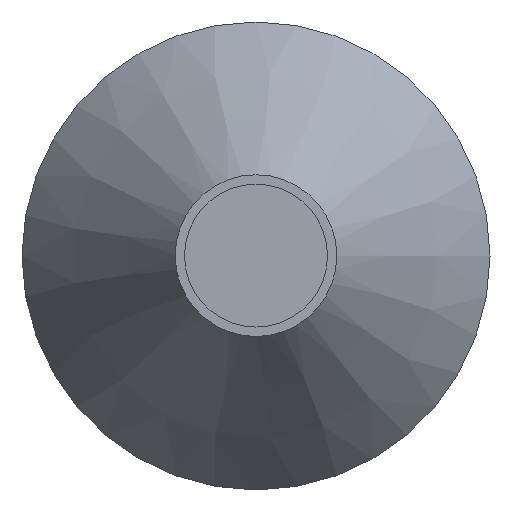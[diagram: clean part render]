
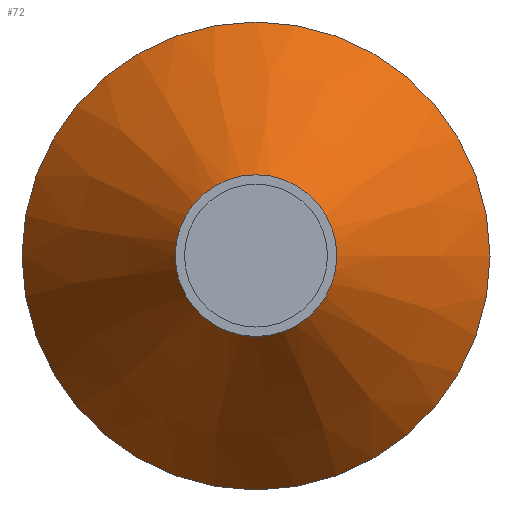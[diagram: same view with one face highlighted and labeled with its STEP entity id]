
A CAD part, top view. The second image highlights one B-rep face of the part: STEP entity #72.
In plain terms, the highlighted conical face has half-angle 34.186 degrees and reference radius 55 mm.
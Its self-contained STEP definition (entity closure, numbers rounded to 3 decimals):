
#39 = EDGE_CURVE('',#40,#40,#42,.T.);
#40 = VERTEX_POINT('',#41);
#41 = CARTESIAN_POINT('',(55.,0.,0.));
#42 = SURFACE_CURVE('',#43,(#48,#60),.PCURVE_S1.);
#43 = CIRCLE('',#44,55.);
#44 = AXIS2_PLACEMENT_3D('',#45,#46,#47);
#45 = CARTESIAN_POINT('',(0.,0.,0.));
#46 = DIRECTION('',(0.,0.,1.));
#47 = DIRECTION('',(1.,0.,-0.));
#48 = PCURVE('',#49,#54);
#49 = PLANE('',#50);
#50 = AXIS2_PLACEMENT_3D('',#51,#52,#53);
#51 = CARTESIAN_POINT('',(0.,0.,0.));
#52 = DIRECTION('',(0.,0.,1.));
#53 = DIRECTION('',(1.,0.,-0.));
#54 = DEFINITIONAL_REPRESENTATION('',(#55),#59);
#55 = CIRCLE('',#56,55.);
#56 = AXIS2_PLACEMENT_2D('',#57,#58);
#57 = CARTESIAN_POINT('',(0.,0.));
#58 = DIRECTION('',(1.,-0.));
#59 = ( GEOMETRIC_REPRESENTATION_CONTEXT(2) 
PARAMETRIC_REPRESENTATION_CONTEXT() REPRESENTATION_CONTEXT('2D SPACE',''
  ) );
#60 = PCURVE('',#61,#66);
#61 = CONICAL_SURFACE('',#62,55.,0.597);
#62 = AXIS2_PLACEMENT_3D('',#63,#64,#65);
#63 = CARTESIAN_POINT('',(0.,0.,0.));
#64 = DIRECTION('',(-0.,-0.,-1.));
#65 = DIRECTION('',(1.,0.,-0.));
#66 = DEFINITIONAL_REPRESENTATION('',(#67),#71);
#67 = LINE('',#68,#69);
#68 = CARTESIAN_POINT('',(-0.,-0.));
#69 = VECTOR('',#70,1.);
#70 = DIRECTION('',(-1.,-0.));
#71 = ( GEOMETRIC_REPRESENTATION_CONTEXT(2) 
PARAMETRIC_REPRESENTATION_CONTEXT() REPRESENTATION_CONTEXT('2D SPACE',''
  ) );
#72 = ADVANCED_FACE('',(#73),#61,.T.);
#73 = FACE_BOUND('',#74,.T.);
#74 = EDGE_LOOP('',(#75,#76,#99,#126));
#75 = ORIENTED_EDGE('',*,*,#39,.T.);
#76 = ORIENTED_EDGE('',*,*,#77,.T.);
#77 = EDGE_CURVE('',#40,#78,#80,.T.);
#78 = VERTEX_POINT('',#79);
#79 = CARTESIAN_POINT('',(19.,0.,53.));
#80 = SEAM_CURVE('',#81,(#85,#92),.PCURVE_S1.);
#81 = LINE('',#82,#83);
#82 = CARTESIAN_POINT('',(55.,0.,0.));
#83 = VECTOR('',#84,1.);
#84 = DIRECTION('',(-0.562,0.,0.827));
#85 = PCURVE('',#61,#86);
#86 = DEFINITIONAL_REPRESENTATION('',(#87),#91);
#87 = LINE('',#88,#89);
#88 = CARTESIAN_POINT('',(-0.,-0.));
#89 = VECTOR('',#90,1.);
#90 = DIRECTION('',(-0.,-1.));
#91 = ( GEOMETRIC_REPRESENTATION_CONTEXT(2) 
PARAMETRIC_REPRESENTATION_CONTEXT() REPRESENTATION_CONTEXT('2D SPACE',''
  ) );
#92 = PCURVE('',#61,#93);
#93 = DEFINITIONAL_REPRESENTATION('',(#94),#98);
#94 = LINE('',#95,#96);
#95 = CARTESIAN_POINT('',(-6.283,-0.));
#96 = VECTOR('',#97,1.);
#97 = DIRECTION('',(-0.,-1.));
#98 = ( GEOMETRIC_REPRESENTATION_CONTEXT(2) 
PARAMETRIC_REPRESENTATION_CONTEXT() REPRESENTATION_CONTEXT('2D SPACE',''
  ) );
#99 = ORIENTED_EDGE('',*,*,#100,.F.);
#100 = EDGE_CURVE('',#78,#78,#101,.T.);
#101 = SURFACE_CURVE('',#102,(#107,#114),.PCURVE_S1.);
#102 = CIRCLE('',#103,19.);
#103 = AXIS2_PLACEMENT_3D('',#104,#105,#106);
#104 = CARTESIAN_POINT('',(0.,0.,53.));
#105 = DIRECTION('',(0.,0.,1.));
#106 = DIRECTION('',(1.,0.,-0.));
#107 = PCURVE('',#61,#108);
#108 = DEFINITIONAL_REPRESENTATION('',(#109),#113);
#109 = LINE('',#110,#111);
#110 = CARTESIAN_POINT('',(-0.,-53.));
#111 = VECTOR('',#112,1.);
#112 = DIRECTION('',(-1.,-0.));
#113 = ( GEOMETRIC_REPRESENTATION_CONTEXT(2) 
PARAMETRIC_REPRESENTATION_CONTEXT() REPRESENTATION_CONTEXT('2D SPACE',''
  ) );
#114 = PCURVE('',#115,#120);
#115 = PLANE('',#116);
#116 = AXIS2_PLACEMENT_3D('',#117,#118,#119);
#117 = CARTESIAN_POINT('',(0.,0.,53.));
#118 = DIRECTION('',(0.,0.,1.));
#119 = DIRECTION('',(1.,0.,-0.));
#120 = DEFINITIONAL_REPRESENTATION('',(#121),#125);
#121 = CIRCLE('',#122,19.);
#122 = AXIS2_PLACEMENT_2D('',#123,#124);
#123 = CARTESIAN_POINT('',(0.,0.));
#124 = DIRECTION('',(1.,0.));
#125 = ( GEOMETRIC_REPRESENTATION_CONTEXT(2) 
PARAMETRIC_REPRESENTATION_CONTEXT() REPRESENTATION_CONTEXT('2D SPACE',''
  ) );
#126 = ORIENTED_EDGE('',*,*,#77,.F.);
